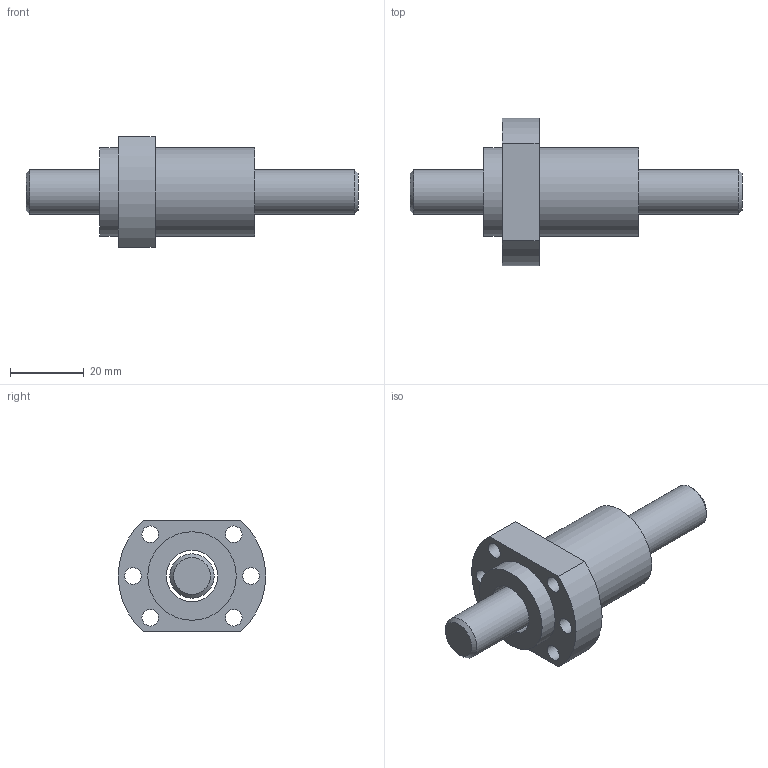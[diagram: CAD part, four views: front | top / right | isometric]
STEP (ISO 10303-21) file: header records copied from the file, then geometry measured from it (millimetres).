
FILE_DESCRIPTION(/* description */ (''),/* implementation_level */ '2;1');
FILE_NAME(/* name */ 'SFA1210-2.8.stp',/* time_stamp */ '2019-04-01T13:09:53+08:00',/* author */ (''),/* organization */ (''),/* preprocessor_version */ 'ST-DEVELOPER v14',/* originating_system */ 'SIEMENS PLM Software NX 8.0',/* authorisation */ '');
FILE_SCHEMA (('AP203_CONFIGURATION_CONTROLLED_3D_DESIGN_OF_MECHANICAL_PARTS_AND_ASSEMBLIES_MIM_LF { 1 0 10303 403 2 1 2}'));
Length unit declared in the file: millimetre
Products named in the file (1): 00250F9064919b4j
Bounding box: 90 x 40 x 30 mm (x, y, z)
Volume: 27953.1 mm3; surface area: 11540.1 mm2
Topology: 2 solids, 2 shells, 22 faces, 49 edges, 33 vertices
Faces by surface type: cylinder 12, plane 8, cone 2
Full cylindrical faces by diameter (mm): 4.5 x6, 12 x1, 14 x1, 24 x2
Entity records: 658 total; most frequent: DIRECTION 106, CARTESIAN_POINT 87, ORIENTED_EDGE 68, EDGE_LOOP 50, AXIS2_PLACEMENT_3D 49, FACE_BOUND 44, EDGE_CURVE 34, VERTEX_POINT 30
